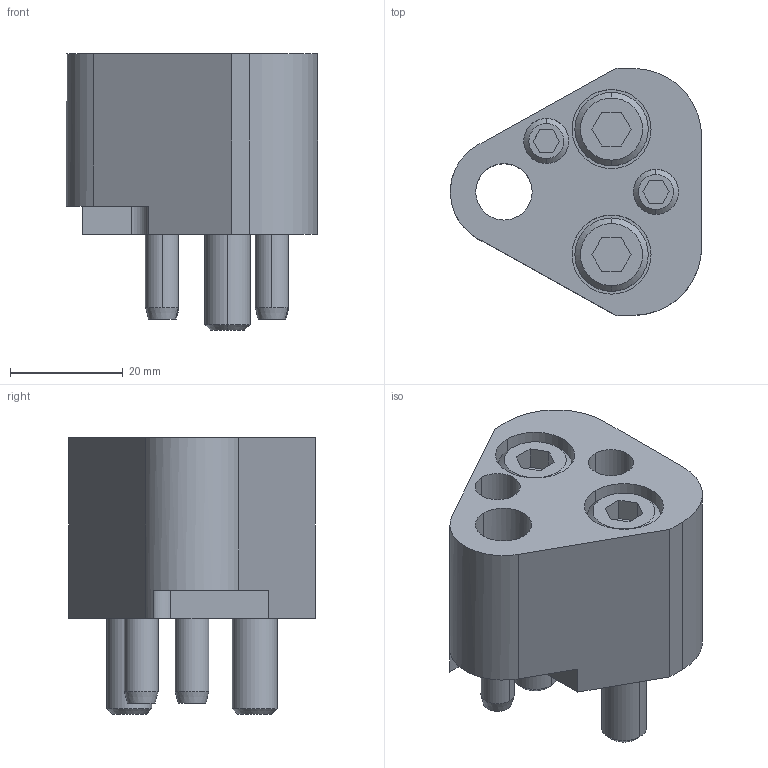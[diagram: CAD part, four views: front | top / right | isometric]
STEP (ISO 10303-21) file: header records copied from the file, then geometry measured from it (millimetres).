
FILE_DESCRIPTION(/* description */ (''),/* implementation_level */ '2;1');
FILE_NAME(/* name */ '3d_crnfr10_03656_r00.stp',/* time_stamp */ '2011-01-10T14:16:19+09:00',/* author */ ('MISUMI'),/* organization */ (''),/* preprocessor_version */ 'ST-DEVELOPER v11',/* originating_system */ 'UGS - NX 5.0',/* authorisation */ '');
FILE_SCHEMA (('CONFIG_CONTROL_DESIGN'));
Length unit declared in the file: millimetre
Products named in the file (1): 3d_crnfr10_03656_r00
Bounding box: 44.49 x 43.7 x 49 mm (x, y, z)
Volume: 41071.2 mm3; surface area: 16490.3 mm2
Topology: 7 solids, 7 shells, 136 faces, 304 edges, 195 vertices
Faces by surface type: plane 62, cylinder 48, cone 26
Entity records: 3927 total; most frequent: DIRECTION 695, CARTESIAN_POINT 695, ORIENTED_EDGE 608, EDGE_CURVE 304, AXIS2_PLACEMENT_3D 261, VERTEX_POINT 195, LINE 173, VECTOR 173
